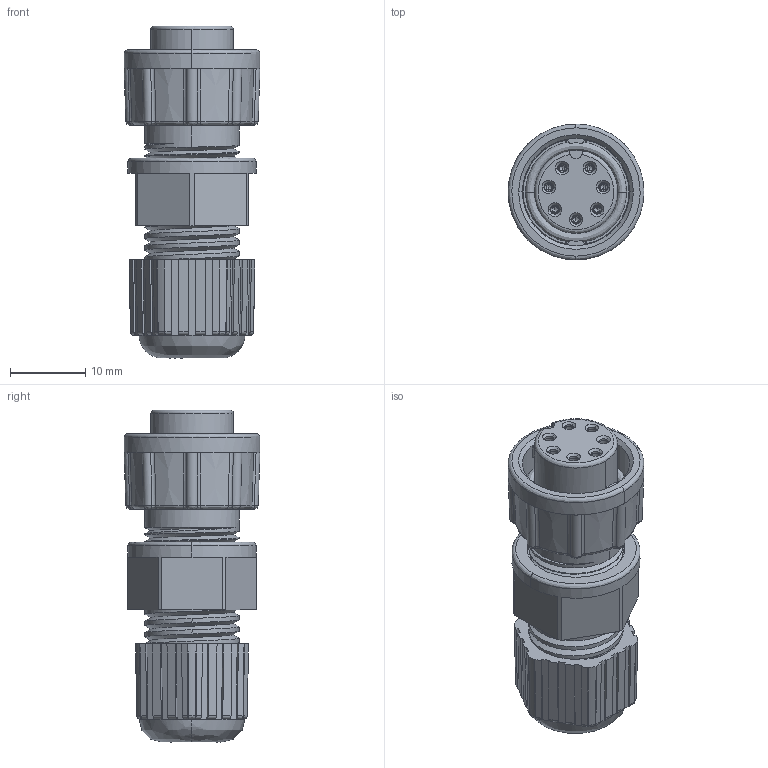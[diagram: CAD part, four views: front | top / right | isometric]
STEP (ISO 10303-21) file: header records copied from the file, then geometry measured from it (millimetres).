
FILE_DESCRIPTION (( 'STEP AP203' ), '1' );
FILE_NAME ('868-007-203KIT.STEP', '2024-06-13T20:27:31', ( '' ), ( '' ), 'SwSTEP 2.0', 'SolidWorks 2020', '' );
FILE_SCHEMA (( 'CONFIG_CONTROL_DESIGN' ));
Products named in the file (1): 868-007-203KIT
Bounding box: 18 x 18 x 44 mm (x, y, z)
Volume: 5800.4 mm3; surface area: 7573.6 mm2
Topology: 2 solids, 2 shells, 707 faces, 1923 edges, 1211 vertices
Faces by surface type: plane 258, cylinder 220, cone 134, bspline 95
Entity records: 35578 total; most frequent: CARTESIAN_POINT 19078, ORIENTED_EDGE 3790, DIRECTION 3009, EDGE_CURVE 1895, VERTEX_POINT 1211, AXIS2_PLACEMENT_3D 1187, EDGE_LOOP 748, FACE_OUTER_BOUND 707
